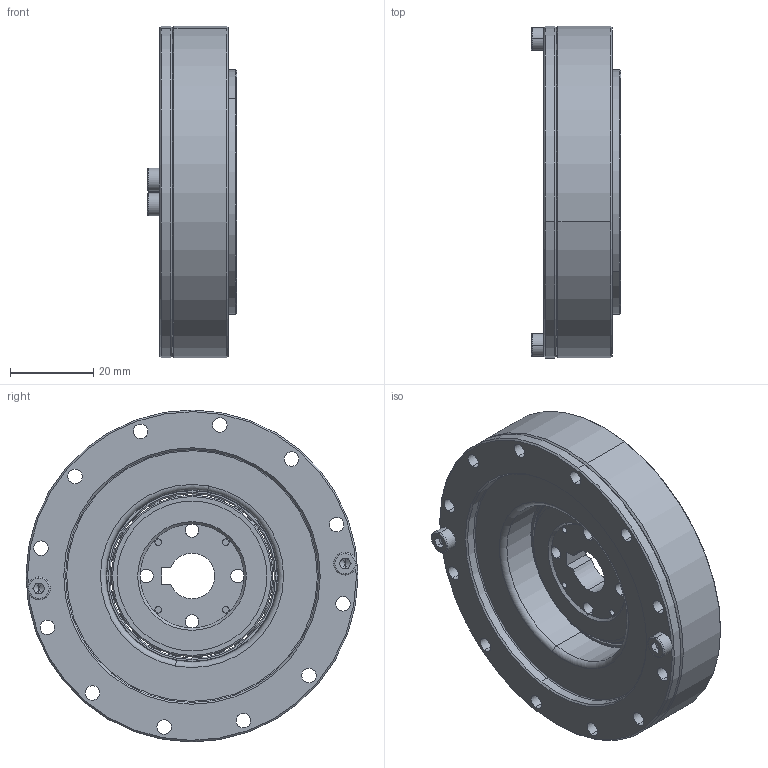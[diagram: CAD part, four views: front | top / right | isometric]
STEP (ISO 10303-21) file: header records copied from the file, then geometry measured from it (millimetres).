
FILE_DESCRIPTION (( 'STEP AP203' ), '1' );
FILE_NAME ('LHD-17-XXX-C-I-S0.STEP', '2017-05-22T03:25:34', ( 'Windows 蚚誧' ), ( 'Users' ), 'SwSTEP 2.0', 'SolidWorks 2013', '' );
FILE_SCHEMA (( 'CONFIG_CONTROL_DESIGN' ));
Length unit declared in the file: millimetre
Products named in the file (13): YF-17; countersunk flat head cross recess screw_din_ISO 7046-1 - M2 x 3 - Z --- 3C; LHD-17-XXX-P03; socket head cap screw_din_DIN 912 M3 x 6 --- 6C; DB-17-I; LHD-17-XXX-P02; RZC内外圈+钢珠; socket head cap screw_din_DIN 912 M2 x 6 --- 6C; 悵厥殤; LHD-17-XXX-C-I-S0; RZC-17; LHD-17-XXX-P01; LHD-17-XXX-P04
Assembly tree (21 placements, depth 3):
  LHD-17-XXX-C-I-S0
    LHD-17-XXX-P03
    DB-17-I
    RZC-17
      RZC内外圈+钢珠
      悵厥殤
    LHD-17-XXX-P01
    LHD-17-XXX-P04
    YF-17
    countersunk flat head cross recess screw_din_ISO 7046-1 - M2 x 3 - Z --- 3C  x4
    socket head cap screw_din_DIN 912 M3 x 6 --- 6C  x2
    LHD-17-XXX-P02
    socket head cap screw_din_DIN 912 M2 x 6 --- 6C  x6
Bounding box: 21.5 x 80 x 80 mm (x, y, z)
Volume: 56586.4 mm3; surface area: 54275.9 mm2
Topology: 22 solids, 22 shells, 982 faces, 2541 edges, 1559 vertices
Faces by surface type: cylinder 371, plane 311, cone 174, torus 80, sphere 46
Entity records: 23879 total; most frequent: CARTESIAN_POINT 4533, DIRECTION 4129, ORIENTED_EDGE 3472, AXIS2_PLACEMENT_3D 1776, EDGE_CURVE 1736, VERTEX_POINT 1116, CIRCLE 1054, EDGE_LOOP 888
